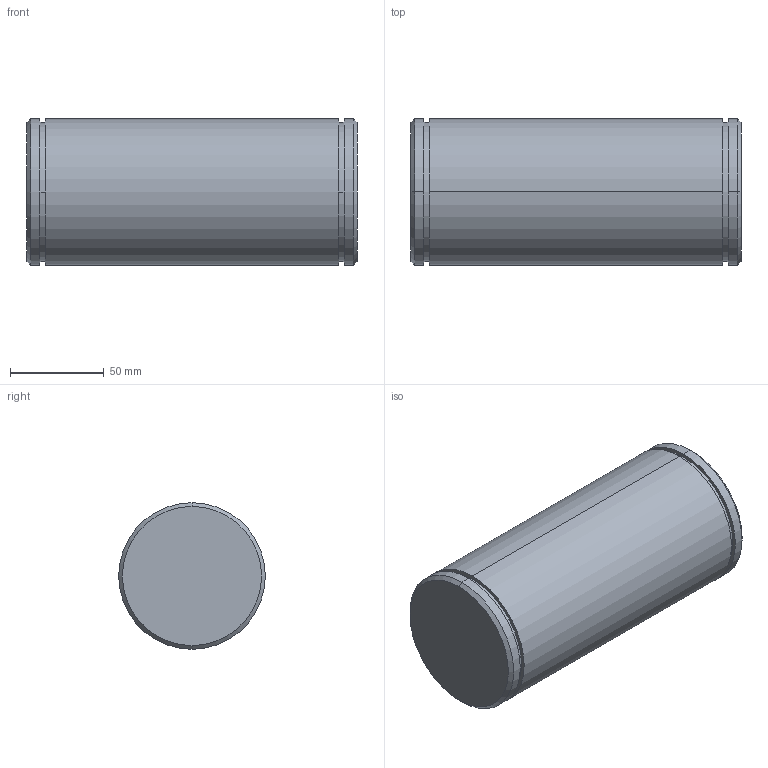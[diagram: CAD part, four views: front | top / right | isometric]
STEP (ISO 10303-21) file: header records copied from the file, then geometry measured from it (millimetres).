
FILE_DESCRIPTION (( 'STEP AP203' ), '1' );
FILE_NAME ('Bolzen Sicherungsring B M76.STEP', '2018-02-22T05:42:03', ( 'install' ), ( 'Hewlett-Packard Company' ), 'SwSTEP 2.0', 'SolidWorks 2017', '' );
FILE_SCHEMA (( 'CONFIG_CONTROL_DESIGN' ));
Length unit declared in the file: millimetre
Products named in the file (1): Bolzen Sicherungsring B M76
Bounding box: 175.8 x 78 x 78 mm (x, y, z)
Volume: 836303.1 mm3; surface area: 53888.1 mm2
Topology: 1 solids, 1 shells, 20 faces, 38 edges, 24 vertices
Faces by surface type: cylinder 10, plane 6, cone 4
Entity records: 591 total; most frequent: DIRECTION 104, CARTESIAN_POINT 83, ORIENTED_EDGE 76, AXIS2_PLACEMENT_3D 45, EDGE_CURVE 38, CIRCLE 24, EDGE_LOOP 24, VERTEX_POINT 24
